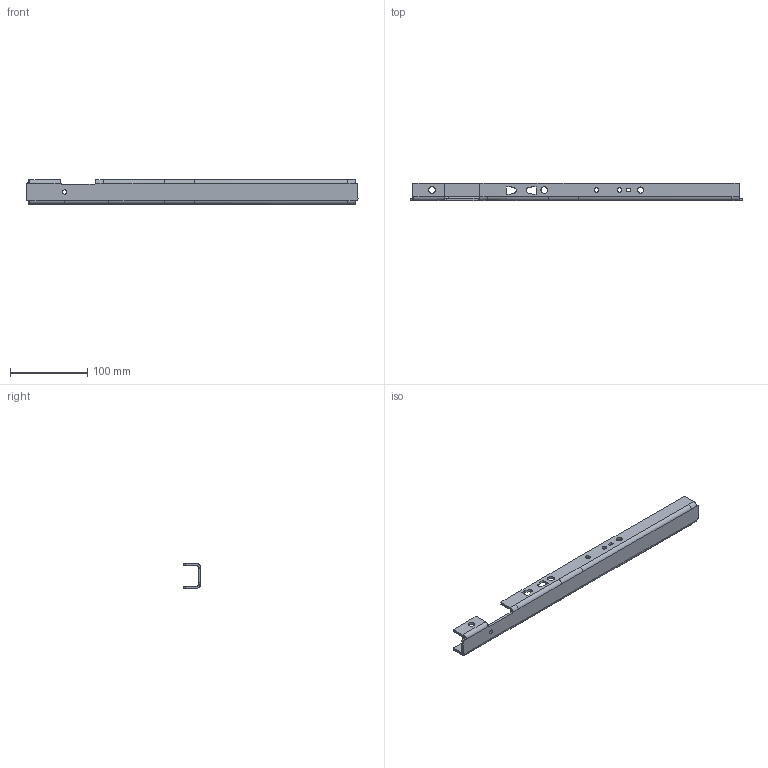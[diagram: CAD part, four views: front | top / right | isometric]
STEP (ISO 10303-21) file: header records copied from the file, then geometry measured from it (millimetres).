
FILE_DESCRIPTION(('CATIA V5 STEP Exchange'),'2;1');
FILE_NAME('C:\Users\nobody\Desktop\SQX3000-6805423_H.stp','2025-06-11T07:48:38+00:00',('none'),('none'),'CATIA Version 5 Release 20 GA (IN-10)','CATIA V5 STEP AP203 Edition 2','none');
FILE_SCHEMA(('AP203_CONFIGURATION_CONTROLLED_3D_DESIGN_OF_MECHANICAL_PARTS_AND_ASSEMBLIES_MIM_LF { 1 0 10303 403 2 1 2}'));
Length unit declared in the file: millimetre
Products named in the file (1): SQX3000-6805423
Bounding box: 429 x 22 x 32 mm (x, y, z)
Volume: 79406.8 mm3; surface area: 57361.3 mm2
Topology: 1 solids, 1 shells, 150 faces, 458 edges, 310 vertices
Faces by surface type: cylinder 97, plane 51, extrusion 2
Entity records: 5437 total; most frequent: CARTESIAN_POINT 1512, ORIENTED_EDGE 916, DIRECTION 614, EDGE_CURVE 458, VERTEX_POINT 310, VECTOR 267, LINE 265, AXIS2_PLACEMENT_3D 242
